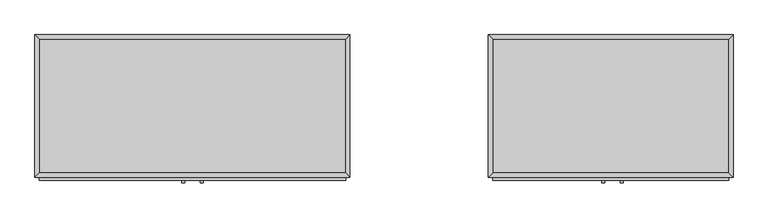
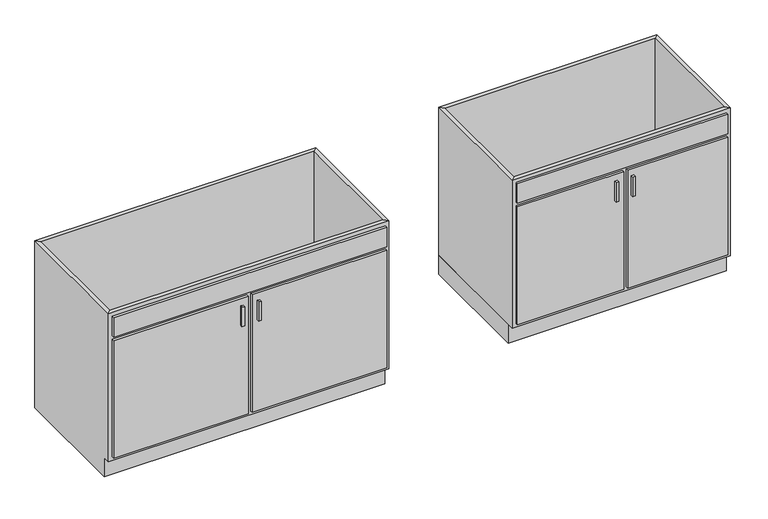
"""IFC4 building model written with IfcOpenShell, lengths in millimetres: proxy geometry, 간이 부엌 - 중간 - 복사본1 : 간이 부엌 - 중간 - 복사본1."""

import ifcopenshell
import ifcopenshell.guid

model = None  # the IFC model being written
_history = None  # IfcOwnerHistory: only IFC2X3 demands one
_inside = {}  # id of a spatial element -> (the spatial element, [elements in it])
_under = {}  # id of a project, library or spatial element -> (it, [spatial elements below it])
_declared = {}  # id of a project -> (the project, [libraries it declares])
_typed = {}  # id of a type object -> (the type object, [elements of that type])
_made_of = {}  # id of a material, layer set ... -> (it, [elements and type objects made of it])


def new_model(schema):
    """Start an empty IFC model of exactly this schema.

    Asked for "IFC4X3", IfcOpenShell would pick the latest addendum, in which some entities
    have other attributes; the version numbers below select the first issue.
    IFC2X3 requires an IfcOwnerHistory on every rooted entity: one is made here for all.
    """
    global model, _history
    if schema == "IFC4X3":
        model = ifcopenshell.file(schema_version=(4, 3, 0, 0))
    else:
        model = ifcopenshell.file(schema=schema)
    _inside.clear()
    _under.clear()
    _declared.clear()
    _typed.clear()
    _made_of.clear()
    _history = None
    if model.schema == "IFC2X3":
        org = make("IfcOrganization", Name="unknown")
        user = make(
            "IfcPersonAndOrganization",
            ThePerson=make("IfcPerson", FamilyName="unknown"),
            TheOrganization=org,
        )
        app = make(
            "IfcApplication",
            ApplicationDeveloper=org,
            Version="unknown",
            ApplicationFullName="unknown",
            ApplicationIdentifier="unknown",
        )
        _history = make(
            "IfcOwnerHistory",
            OwningUser=user,
            OwningApplication=app,
            ChangeAction="ADDED",
            CreationDate=0,
        )
    return model


def make(cls, **values):
    """One entity of the class cls with the attributes given. An attribute that is None is left unset."""
    return model.create_entity(
        cls, **{name: value for name, value in values.items() if value is not None}
    )


def rooted(cls, **values):
    """An entity with a GlobalId (a new one), such as an element, a storey or a relation."""
    return make(cls, GlobalId=ifcopenshell.guid.new(), OwnerHistory=_history, **values)


def si_unit(unit_type, name, prefix=None):
    """IfcSIUnit, for example si_unit("LENGTHUNIT", "METRE", prefix="MILLI")."""
    return make("IfcSIUnit", UnitType=unit_type, Prefix=prefix, Name=name)


def assignment(units):
    """IfcUnitAssignment: the units of a project."""
    return None if units is None else make("IfcUnitAssignment", Units=units)


def point(xyz):
    """IfcCartesianPoint."""
    return None if xyz is None else make("IfcCartesianPoint", Coordinates=xyz)


def direction(xyz):
    """IfcDirection."""
    return None if xyz is None else make("IfcDirection", DirectionRatios=xyz)


def frame(location, z_axis=None, x_axis=None):
    """IfcAxis2Placement3D, a coordinate frame: its origin and axes. An axis left out is left unset."""
    return make(
        "IfcAxis2Placement3D",
        Location=point(location),
        Axis=direction(z_axis),
        RefDirection=direction(x_axis),
    )


def origin():
    """The frame at (0, 0, 0) with its axes left unset."""
    return frame((0.0, 0.0, 0.0))


def origin_with_axes():
    """The frame at (0, 0, 0) with the z axis (0, 0, 1) and the x axis (1, 0, 0) written out."""
    return frame((0.0, 0.0, 0.0), z_axis=(0.0, 0.0, 1.0), x_axis=(1.0, 0.0, 0.0))


def place(relative_to, where):
    """IfcLocalPlacement: puts the frame where relative to a parent placement (None: the world)."""
    return make(
        "IfcLocalPlacement", PlacementRelTo=relative_to, RelativePlacement=where
    )


def context(
    kind, dimensions, precision=None, world=None, true_north=None, identifier=None
):
    """IfcGeometricRepresentationContext, for example the 3D "Model" context."""
    return make(
        "IfcGeometricRepresentationContext",
        ContextIdentifier=identifier,
        ContextType=kind,
        CoordinateSpaceDimension=dimensions,
        Precision=precision,
        WorldCoordinateSystem=world,
        TrueNorth=true_north,
    )


def project(units=None, contexts=None):
    """IfcProject with its units and contexts."""
    return rooted(
        "IfcProject",
        Name="project",
        RepresentationContexts=contexts,
        UnitsInContext=assignment(units),
    )


def spatial(cls, under=None, at=None, **own):
    """A site, building, storey or space (cls), placed at a placement, below another one or the project."""
    s = rooted(cls, ObjectPlacement=at, **own)
    if under is not None:
        _under.setdefault(under.id(), (under, []))[1].append(s)
    return s


def polyline(points):
    """IfcPolyline through the points."""
    return make("IfcPolyline", Points=[point(p) for p in points])


def outline(outer, holes=None, kind="AREA"):
    """IfcArbitraryClosedProfileDef: a profile drawn as a closed curve; with holes, ...WithVoids."""
    if holes is None:
        return make("IfcArbitraryClosedProfileDef", ProfileType=kind, OuterCurve=outer)
    return make(
        "IfcArbitraryProfileDefWithVoids",
        ProfileType=kind,
        OuterCurve=outer,
        InnerCurves=holes,
    )


def extrude(swept, where, along, depth):
    """IfcExtrudedAreaSolid: the profile swept, set in the frame where, extruded along a direction by depth."""
    return make(
        "IfcExtrudedAreaSolid",
        SweptArea=swept,
        Position=where,
        ExtrudedDirection=direction(along),
        Depth=depth,
    )


def faces_of(points, faces, orient=None, outer=None):
    """IfcFace entities. A face is a list of loops; a loop is a list of indices into points, from 0.

    orient and outer hold one flag for each loop. By default every Orientation is true, the
    first loop of a face is its IfcFaceOuterBound and the others are IfcFaceBound.
    """
    made = []
    for i, loops in enumerate(faces):
        bounds = []
        for j, loop in enumerate(loops):
            is_outer = j == 0 if outer is None else outer[i][j]
            bounds.append(
                make(
                    "IfcFaceOuterBound" if is_outer else "IfcFaceBound",
                    Bound=make("IfcPolyLoop", Polygon=[points[k] for k in loop]),
                    Orientation=True if orient is None else orient[i][j],
                )
            )
        made.append(make("IfcFace", Bounds=bounds))
    return made


def faceted_brep(points, faces, orient=None, outer=None, voids=None):
    """IfcFacetedBrep: a solid bounded by flat faces; with voids (closed shells), ...WithVoids."""
    shared = [point(p) for p in points]
    hull = make("IfcClosedShell", CfsFaces=faces_of(shared, faces, orient, outer))
    if voids is None:
        return make("IfcFacetedBrep", Outer=hull)
    return make(
        "IfcFacetedBrepWithVoids",
        Outer=hull,
        Voids=[
            make(cls, CfsFaces=faces_of(shared, fs, o, b)) for cls, fs, o, b in voids
        ],
    )


def shape(context_of_items, identifier, shape_type, items):
    """IfcShapeRepresentation: the items that make up one representation, for example the "Body"."""
    return make(
        "IfcShapeRepresentation",
        ContextOfItems=context_of_items,
        RepresentationIdentifier=identifier,
        RepresentationType=shape_type,
        Items=items,
    )


def source(mapping_origin, context_of_items, identifier, shape_type, items):
    """IfcRepresentationMap: a shape defined once, which mapped items show again and again."""
    return make(
        "IfcRepresentationMap",
        MappingOrigin=mapping_origin,
        MappedRepresentation=shape(context_of_items, identifier, shape_type, items),
    )


def transform(
    local_origin,
    x_axis=None,
    y_axis=None,
    z_axis=None,
    scale=None,
    scale2=None,
    scale3=None,
    uniform=True,
):
    """IfcCartesianTransformationOperator3D, or its non-uniform kind. x_axis, y_axis, z_axis: its Axis1, 2, 3."""
    if uniform:
        return make(
            "IfcCartesianTransformationOperator3D",
            Axis1=direction(x_axis),
            Axis2=direction(y_axis),
            LocalOrigin=point(local_origin),
            Scale=scale,
            Axis3=direction(z_axis),
        )
    return make(
        "IfcCartesianTransformationOperator3DnonUniform",
        Axis1=direction(x_axis),
        Axis2=direction(y_axis),
        LocalOrigin=point(local_origin),
        Scale=scale,
        Axis3=direction(z_axis),
        Scale2=scale2,
        Scale3=scale3,
    )


def mapped(mapping_source, mapping_target):
    """IfcMappedItem: shows the shape of a source again, moved by a transform."""
    return make(
        "IfcMappedItem", MappingSource=mapping_source, MappingTarget=mapping_target
    )


def made_of(thing, what):
    """Note that an element or type object is made of a material, layer set ...; save() writes the relation."""
    if what is not None:
        _made_of.setdefault(what.id(), (what, []))[1].append(thing)
    return thing


def element(
    cls,
    number,
    at=None,
    inside=None,
    cuts=None,
    type_object=None,
    material=None,
    context=None,
    identifier="Body",
    shape_type=None,
    held_by="IfcProductDefinitionShape",
    body=None,
    shapes=None,
    **own,
):
    """One element of the class cls, such as IfcWall. Its Tag is "e" and its number.

    at: its placement. inside: the storey or other place that contains it. cuts: it is an
    opening in that element (IfcRelVoidsElement). A single representation is given by context,
    identifier, shape_type and body (its items); several are given by shapes. held_by: the class
    of the entity that holds the representations. save() writes the other relations.
    """
    e = rooted(cls, Tag="e%d" % number, ObjectPlacement=at, **own)
    if body is not None:
        shapes = [shape(context, identifier, shape_type, body)]
    if shapes is not None:
        e.Representation = make(held_by, Representations=shapes)
    if inside is not None:
        _inside.setdefault(inside.id(), (inside, []))[1].append(e)
    if cuts is not None:
        rooted(
            "IfcRelVoidsElement", RelatingBuildingElement=cuts, RelatedOpeningElement=e
        )
    if type_object is not None:
        _typed.setdefault(type_object.id(), (type_object, []))[1].append(e)
    return made_of(e, material)


def aggregate(whole, parts):
    """IfcRelAggregates: a whole, such as a stair, and the parts it consists of."""
    return rooted("IfcRelAggregates", RelatingObject=whole, RelatedObjects=parts)


def save(model, path):
    """Write the relations noted so far, then the file.

    IfcRelAggregates (storeys below a building ...), IfcRelContainedInSpatialStructure (elements
    in a storey), IfcRelDefinesByType, IfcRelAssociatesMaterial and IfcRelDeclares: one each for
    every whole, place, type object, material and project.
    """
    for whole, parts in _under.values():
        aggregate(whole, parts)
    for where, things in _inside.values():
        rooted(
            "IfcRelContainedInSpatialStructure",
            RelatedElements=things,
            RelatingStructure=where,
        )
    for kind, things in _typed.values():
        rooted("IfcRelDefinesByType", RelatedObjects=things, RelatingType=kind)
    for what, things in _made_of.values():
        rooted("IfcRelAssociatesMaterial", RelatedObjects=things, RelatingMaterial=what)
    for by, libraries in _declared.values():
        rooted("IfcRelDeclares", RelatingContext=by, RelatedDefinitions=libraries)
    model.write(path)


def specialty_equipment_54e90587(model_context):
    return source(origin(), model_context, "Body", "SolidModel", [
        extrude(outline(polyline([(1836.5127049, -655.4), (1823.8127049, -655.4), (1823.8127049, -642.7), (1836.5127049, -642.7), (1836.5127049, -655.4)])), frame((0.0, 0.0, 600.2583446), z_axis=(0.0, 0.0, 1.0), x_axis=(1.0, 0.0, 0.0)), (0.0, 0.0, 1.0), 101.6),
        extrude(outline(polyline([(1919.0627049, -655.4), (1906.3627049, -655.4), (1906.3627049, -642.7), (1919.0627049, -642.7), (1919.0627049, -655.4)])), frame((0.0, 0.0, 600.2583446), z_axis=(0.0, 0.0, 1.0), x_axis=(1.0, 0.0, 0.0)), (0.0, 0.0, 1.0), 101.6),
        extrude(outline(polyline([(2384.6877049, -19.05), (2384.6877049, -610.95), (1342.7877049, -610.95), (1342.7877049, -19.05), (2384.6877049, -19.05)])), frame((0.0, 0.0, 100.0), z_axis=(0.0, 0.0, 1.0), x_axis=(1.0, 0.0, 0.0)), (0.0, 0.0, 1.0), 19.05),
        faceted_brep([(1342.7877049, -610.95, 875.0), (1342.7877049, -610.95, 100.0), (1342.7877049, -19.05, 100.0), (1342.7877049, -19.05, 875.0), (1323.7377049, -630.0, 875.0), (1323.7377049, 0.0, 875.0), (1323.7377049, -630.0, 100.0), (1323.7377049, 0.0, 100.0), (2384.6877049, -19.05, 100.0), (2384.6877049, -19.05, 875.0), (2403.7377049, 0.0, 875.0), (2403.7377049, 0.0, 100.0), (2384.6877049, -610.95, 100.0), (2384.6877049, -610.95, 875.0), (2403.7377049, -630.0, 875.0), (2403.7377049, -630.0, 100.0)], [[[0, 1, 2, 3]], [[4, 0, 3, 5]], [[6, 4, 5, 7]], [[1, 6, 7, 2]], [[3, 2, 8, 9]], [[5, 3, 9, 10]], [[7, 5, 10, 11]], [[2, 7, 11, 8]], [[9, 8, 12, 13]], [[10, 9, 13, 14]], [[11, 10, 14, 15]], [[8, 11, 15, 12]], [[13, 12, 1, 0]], [[14, 13, 0, 4]], [[15, 14, 4, 6]], [[12, 15, 6, 1]]]),
        extrude(outline(polyline([(2403.7377049, 0.0), (2403.7377049, -595.0), (1323.7377049, -595.0), (1323.7377049, 0.0), (2403.7377049, 0.0)])), origin_with_axes(), (0.0, 0.0, 1.0), 100.0),
        faceted_brep([(694.6877049, -610.95, 875.0), (694.6877049, -610.95, 100.0), (-657.2122951, -610.95, 100.0), (-657.2122951, -610.95, 875.0), (-676.2622951, -630.0, 875.0), (713.7377049, -630.0, 875.0), (-676.2622951, -630.0, 100.0), (713.7377049, -630.0, 100.0), (-657.2122951, -595.0, 100.0), (-657.2122951, -19.05, 100.0), (-657.2122951, -19.05, 875.0), (-676.2622951, 0.0, 875.0), (-676.2622951, 0.0, 0.0), (-676.2622951, -595.0, 0.0), (-676.2622951, -595.0, 100.0), (694.6877049, -19.05, 100.0), (694.6877049, -19.05, 875.0), (713.7377049, 0.0, 875.0), (713.7377049, 0.0, 0.0), (694.6877049, -595.0, 100.0), (713.7377049, -595.0, 100.0), (713.7377049, -595.0, 0.0)], [[[0, 1, 2, 3]], [[0, 3, 4, 5]], [[5, 4, 6, 7]], [[2, 1, 7, 6]], [[3, 2, 8, 9, 10]], [[4, 3, 10, 11]], [[6, 4, 11, 12, 13, 14]], [[2, 6, 14, 8]], [[10, 9, 15, 16]], [[11, 10, 16, 17]], [[12, 11, 17, 18]], [[1, 0, 16, 15, 19]], [[0, 5, 17, 16]], [[5, 7, 20, 21, 18, 17]], [[7, 1, 19, 20]], [[8, 19, 15, 9]], [[18, 21, 13, 12]], [[13, 21, 20, 19, 8, 14]]]),
        extrude(outline(polyline([(-16.1872951, -655.4), (-28.8872951, -655.4), (-28.8872951, -642.7), (-16.1872951, -642.7), (-16.1872951, -655.4)])), frame((0.0, 0.0, 595.6), z_axis=(0.0, 0.0, 1.0), x_axis=(1.0, 0.0, 0.0)), (0.0, 0.0, 1.0), 101.6),
        extrude(outline(polyline([(66.3627049, -655.4), (53.6627049, -655.4), (53.6627049, -642.7), (66.3627049, -642.7), (66.3627049, -655.4)])), frame((0.0, 0.0, 595.6), z_axis=(0.0, 0.0, 1.0), x_axis=(1.0, 0.0, 0.0)), (0.0, 0.0, 1.0), 101.6),
        extrude(outline(polyline([(694.6877049, -19.05), (694.6877049, -610.95), (-657.2122951, -610.95), (-657.2122951, -19.05), (694.6877049, -19.05)])), frame((0.0, 0.0, 100.0), z_axis=(0.0, 0.0, 1.0), x_axis=(1.0, 0.0, 0.0)), (0.0, 0.0, 1.0), 19.05),
        extrude(outline(polyline([(1868.2627049, -642.7), (1342.7877049, -642.7), (1342.7877049, -630.0), (1868.2627049, -630.0), (1868.2627049, -642.7)])), frame((0.0, 0.0, 119.05), z_axis=(0.0, 0.0, 1.0), x_axis=(1.0, 0.0, 0.0)), (0.0, 0.0, 1.0), 616.25),
        extrude(outline(polyline([(2384.6877049, -642.7), (1888.2627049, -642.7), (1888.2627049, -630.0), (2384.6877049, -630.0), (2384.6877049, -642.7)])), frame((0.0, 0.0, 119.05), z_axis=(0.0, 0.0, 1.0), x_axis=(1.0, 0.0, 0.0)), (0.0, 0.0, 1.0), 616.25),
        extrude(outline(polyline([(2384.6877049, -642.7), (1342.7877049, -642.7), (1342.7877049, -630.0), (2384.6877049, -630.0), (2384.6877049, -642.7)])), frame((0.0, 0.0, 754.35), z_axis=(0.0, 0.0, 1.0), x_axis=(1.0, 0.0, 0.0)), (0.0, 0.0, 1.0), 101.6),
        extrude(outline(polyline([(9.2127049, -642.7), (-657.2122951, -642.7), (-657.2122951, -630.0), (9.2127049, -630.0), (9.2127049, -642.7)])), frame((0.0, 0.0, 119.05), z_axis=(0.0, 0.0, 1.0), x_axis=(1.0, 0.0, 0.0)), (0.0, 0.0, 1.0), 616.25),
        extrude(outline(polyline([(694.6877049, -642.7), (28.2627049, -642.7), (28.2627049, -630.0), (694.6877049, -630.0), (694.6877049, -642.7)])), frame((0.0, 0.0, 119.05), z_axis=(0.0, 0.0, 1.0), x_axis=(1.0, 0.0, 0.0)), (0.0, 0.0, 1.0), 616.25),
        extrude(outline(polyline([(694.6877049, -642.7), (-657.2122951, -642.7), (-657.2122951, -630.0), (694.6877049, -630.0), (694.6877049, -642.7)])), frame((0.0, 0.0, 754.35), z_axis=(0.0, 0.0, 1.0), x_axis=(1.0, 0.0, 0.0)), (0.0, 0.0, 1.0), 101.6),
    ])


if __name__ == "__main__":
    model = new_model("IFC4")
    model_context = context("Model", 3, world=origin())
    ifc_project = project(units=[si_unit("LENGTHUNIT", "METRE", prefix="MILLI")], contexts=[model_context])
    site = spatial("IfcSite", under=ifc_project)
    building = spatial("IfcBuilding", under=site)
    placement = place(None, origin())
    specialty_equipment_shape = specialty_equipment_54e90587(model_context)
    element("IfcBuildingElementProxy", 1, Name="간이 부엌 - 중간 - 복사본1 : 간이 부엌 - 중간 - 복사본1", ObjectType="간이 부엌 - 중간 - 복사본1 : 간이 부엌 - 중간 - 복사본1", at=placement, inside=building, context=model_context, shape_type="MappedRepresentation", body=[
        mapped(specialty_equipment_shape, transform((0.0, 0.0, 0.0), x_axis=(1.0, 0.0, 0.0), y_axis=(0.0, 1.0, 0.0), z_axis=(0.0, 0.0, 1.0))),
    ])
    save(model, "model.ifc")
